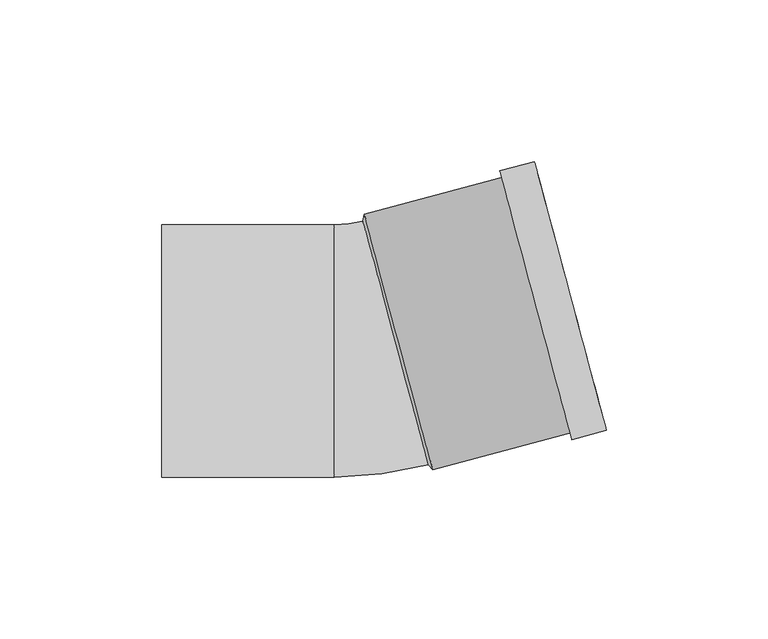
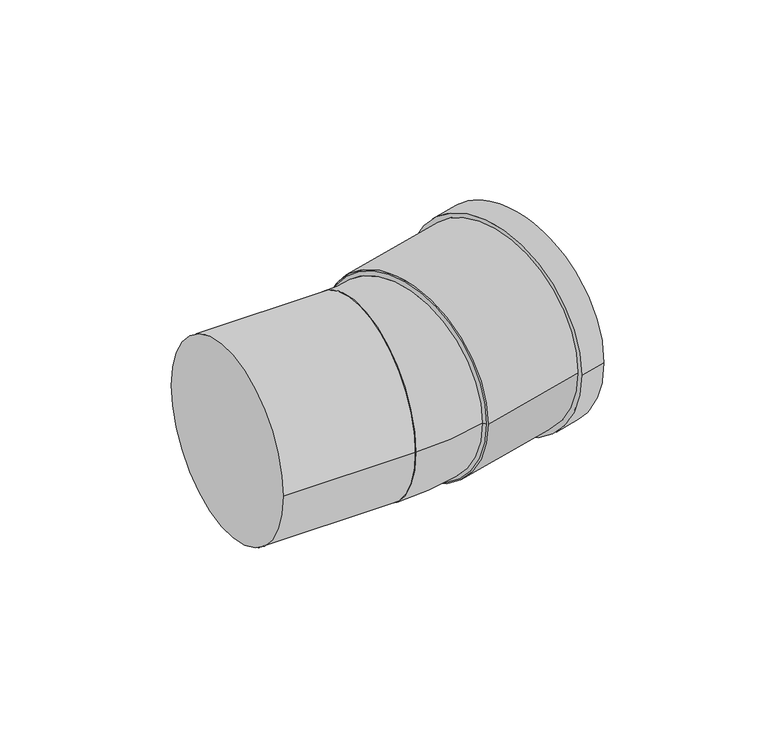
"""IFC4 building model written with IfcOpenShell, lengths in millimetres: pipe fitting geometry, Superdrain SKB Bend : Superdrain SKB Bend."""

from ifc_helpers import new_model, si_unit, point, frame, origin, origin_2d, place, context, project, spatial, polyline, circle_curve, ellipse_curve, trimmed, segment, composite_curve, outline, extrude, source, transform, mapped, element, save
from ifc_brep_helpers import plane_surface, revolved_surface, advanced_brep


def pipe_fitting_f070d908(model_context):
    return source(origin(), model_context, "Body", "SolidModel", [
        advanced_brep(
        [(19.3668307, -35.1864444, 0.0), (-0.8210548, 40.1557701, 0.0), (-9.6, -39.0, 0.0), (-9.6, 39.0, 0.0)],
        [
            (0, 1, circle_curve(frame((9.2728879, 2.4846628, 0.0), z_axis=(0.965925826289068, 0.2588190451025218, 0.0), x_axis=(-0.2588190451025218, 0.965925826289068, 0.0)), 39.0)),
            (1, 0, circle_curve(frame((9.2728879, 2.4846628, 0.0), z_axis=(0.965925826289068, 0.258819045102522, 0.0), x_axis=(-0.258819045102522, 0.965925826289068, 0.0)), 39.0)),
            (2, 3, circle_curve(frame((-9.6, 0.0, 0.0), z_axis=(-1.0, 0.0, 0.0), x_axis=(0.0, 1.0, 0.0)), 39.0)),
            (3, 2, circle_curve(frame((-9.6, 0.0, 0.0), z_axis=(-1.0, 0.0, 0.0), x_axis=(0.0, 1.0, 0.0)), 39.0)),
            (3, 1, circle_curve(frame((-9.6, 72.9192395, 0.0), z_axis=(0.0, 0.0, 1.0), x_axis=(1.0, 0.0, 0.0)), 33.9192395)),
            (0, 2, circle_curve(frame((-9.6, 72.9192395, 0.0), z_axis=(0.0, 0.0, -1.0), x_axis=(1.0, 0.0, 0.0)), 111.9192395)),
        ],
        [
            plane_surface(frame((9.2728879, 2.4846628, 0.0), z_axis=(0.965925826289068, 0.2588190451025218, 0.0), x_axis=(0.0, 0.0, -1.0))),
            plane_surface(frame((-9.6, 0.0, 0.0), z_axis=(-1.0, 0.0, 0.0), x_axis=(0.0, 0.0, -1.0))),
            revolved_surface(trimmed(ellipse_curve(frame((63.3192395, 72.9192395, 0.0), z_axis=(0.0, -1.0, 0.0), x_axis=(-1.0, 0.0, 0.0)), 39.0, 39.0), [point((24.3192395, 72.9192395, 0.0))], [point((102.3192395, 72.9192395, 0.0))], True, "CARTESIAN"), (-9.6, 72.9192395, 0.0), (0.0, 0.0, 1.0)),
            revolved_surface(trimmed(ellipse_curve(frame((63.3192395, 72.9192395, 0.0), z_axis=(0.0, -1.0, 0.0), x_axis=(-1.0, 0.0, 0.0)), 39.0, 39.0), [point((102.3192395, 72.9192395, 0.0))], [point((24.3192395, 72.9192395, 0.0))], True, "CARTESIAN"), (-9.6, 72.9192395, 0.0), (0.0, 0.0, 1.0)),
        ],
        [
            (0, [[1, 2]]),
            (1, [[3, 4]]),
            (2, [[-4, 5, -1, 6]]),
            (3, [[-3, -6, -2, -5]]),
        ],
    ),
        extrude(outline(composite_curve([segment(trimmed(circle_curve(origin_2d(), 40.95), [point((0.0, 40.95))], [point((0.0, -40.95))], False, "CARTESIAN"), True, "CONTINUOUS"), segment(trimmed(circle_curve(origin_2d(), 40.95), [point((0.0, -40.95))], [point((0.0, 40.95))], False, "CARTESIAN"), True, "CONTINUOUS")], self_intersect=False), holes=[composite_curve([segment(trimmed(circle_curve(origin_2d(), 39.0), [point((0.0, 39.0))], [point((0.0, -39.0))], True, "CARTESIAN"), True, "CONTINUOUS"), segment(trimmed(circle_curve(origin_2d(), 39.0), [point((0.0, -39.0))], [point((0.0, 39.0))], True, "CARTESIAN"), True, "CONTINUOUS")], self_intersect=False)]), frame((10.2388138, 2.7434819, 0.0), z_axis=(0.9659258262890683, 0.2588190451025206, 0.0), x_axis=(0.0, 0.0, 1.0)), (0.0, 0.0, 1.0), 55.0),
        extrude(outline(composite_curve([segment(trimmed(circle_curve(origin_2d(), 42.9975), [point((0.0, -42.9975))], [point((0.0, 42.9975001))], False, "CARTESIAN"), True, "CONTINUOUS"), segment(trimmed(circle_curve(origin_2d(), 42.9975), [point((0.0, 42.9975001))], [point((0.0, -42.9975))], False, "CARTESIAN"), True, "CONTINUOUS")], self_intersect=False), holes=[composite_curve([segment(trimmed(circle_curve(origin_2d(), 39.0), [point((0.0, -39.0))], [point((0.0, 39.0000001))], True, "CARTESIAN"), True, "CONTINUOUS"), segment(trimmed(circle_curve(origin_2d(), 39.0), [point((0.0, 39.0000001))], [point((0.0, -39.0))], True, "CARTESIAN"), True, "CONTINUOUS")], self_intersect=False)]), frame((52.7395501, 14.1315199, 0.0), z_axis=(0.9659258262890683, 0.2588190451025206, 0.0), x_axis=(0.0, 0.0, 1.0)), (0.0, 0.0, 1.0), 11.0),
        advanced_brep(
        [(20.8374537, -36.8111807, 0.0), (-0.3598261, 42.2981445, 0.0), (19.3668307, -35.1864444, 0.0), (-0.8210548, 40.1557701, 0.0)],
        [
            (0, 1, circle_curve(frame((10.2388138, 2.7434819, 0.0), z_axis=(0.9659258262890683, 0.2588190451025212, 0.0), x_axis=(0.2588190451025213, -0.9659258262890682, 0.0)), 40.95)),
            (1, 0, circle_curve(frame((10.2388138, 2.7434819, 0.0), z_axis=(0.9659258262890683, 0.2588190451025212, 0.0), x_axis=(-0.2588190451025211, 0.9659258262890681, 0.0)), 40.95)),
            (2, 3, circle_curve(frame((9.2728879, 2.4846628, 0.0), z_axis=(-0.9659258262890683, -0.2588190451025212, 0.0), x_axis=(-0.2588190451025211, 0.9659258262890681, 0.0)), 39.0)),
            (3, 2, circle_curve(frame((9.2728879, 2.4846628, 0.0), z_axis=(-0.9659258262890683, -0.2588190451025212, 0.0), x_axis=(0.2588190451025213, -0.9659258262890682, 0.0)), 39.0)),
            (3, 1),
            (0, 2),
        ],
        [
            plane_surface(frame((10.2388138, 2.7434819, 0.0), z_axis=(0.9659258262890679, 0.25881904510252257, 0.0), x_axis=(0.0, 0.0, -1.0))),
            plane_surface(frame((9.2728879, 2.4846628, 0.0), z_axis=(-0.9659258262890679, -0.25881904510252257, 0.0), x_axis=(0.0, 0.0, -1.0))),
            revolved_surface(polyline([(-0.8210548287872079, 40.155769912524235, 0.0), (-0.35982609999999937, 42.2981445, 0.0)]), (-10.0456286, -2.6917181, 0.0), (0.9659258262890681, 0.25881904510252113, 0.0)),
            revolved_surface(polyline([(19.36683061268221, -35.18644425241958, 0.0), (20.837453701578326, -36.81118070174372, 0.0)]), (-10.0456286, -2.6917181, 0.0), (0.9659258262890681, 0.25881904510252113, 0.0)),
        ],
        [
            (0, [[1, 2]]),
            (1, [[3, 4]]),
            (2, [[-4, 5, -1, 6]]),
            (3, [[-3, -6, -2, -5]]),
        ],
    ),
        extrude(outline(composite_curve([segment(trimmed(circle_curve(origin_2d(), 39.0), [point((-39.0, 0.0))], [point((39.0, 0.0))], False, "CARTESIAN"), True, "CONTINUOUS"), segment(trimmed(circle_curve(origin_2d(), 39.0), [point((39.0, 0.0))], [point((-39.0, 0.0))], False, "CARTESIAN"), True, "CONTINUOUS")], self_intersect=False)), frame((-63.0, 0.0, 0.0), z_axis=(1.0, 0.0, 0.0), x_axis=(0.0, 1.0, 0.0)), (0.0, 0.0, 1.0), 53.4),
    ])


if __name__ == "__main__":
    model = new_model("IFC4")
    model_context = context("Model", 3, world=origin())
    ifc_project = project(units=[si_unit("LENGTHUNIT", "METRE", prefix="MILLI")], contexts=[model_context])
    site = spatial("IfcSite", under=ifc_project)
    building = spatial("IfcBuilding", under=site)
    placement = place(None, origin())
    pipe_fitting_shape = pipe_fitting_f070d908(model_context)
    element("IfcPipeFitting", 1, ObjectType="Superdrain SKB Bend : Superdrain SKB Bend", at=placement, inside=building, context=model_context, shape_type="MappedRepresentation", body=[
        mapped(pipe_fitting_shape, transform((0.0, 0.0, 0.0), x_axis=(1.0, 0.0, 0.0), y_axis=(0.0, 1.0, 0.0), z_axis=(0.0, 0.0, 1.0))),
    ])
    save(model, "model.ifc")
